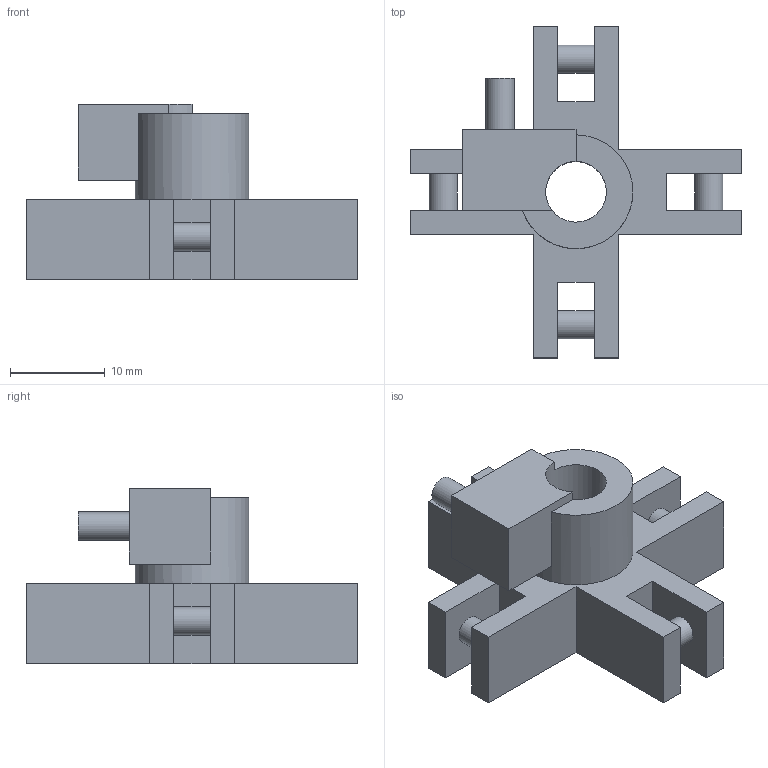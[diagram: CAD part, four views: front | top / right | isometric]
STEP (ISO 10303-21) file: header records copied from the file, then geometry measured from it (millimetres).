
FILE_DESCRIPTION(('Open CASCADE Model'),'2;1');
FILE_NAME('Open CASCADE Shape Model','2026-10-15T18:27:22',('Author'),( 'Open CASCADE'),'Open CASCADE STEP processor 7.9','Open CASCADE 7.9' ,'Unknown');
FILE_SCHEMA(('AUTOMOTIVE_DESIGN { 1 0 10303 214 1 1 1 1 }'));
Length unit declared in the file: millimetre
Products named in the file (1): Open CASCADE STEP translator 7.9 11
Bounding box: 35 x 35 x 18.5 mm (x, y, z)
Volume: 4692.6 mm3; surface area: 3648 mm2
Topology: 1 solids, 1 shells, 50 faces, 136 edges, 90 vertices
Faces by surface type: plane 43, cylinder 7
Full cylindrical faces by diameter (mm): 3 x5, 6.4 x1, 12 x1
Entity records: 3370 total; most frequent: CARTESIAN_POINT 663, DIRECTION 482, LINE 346, VECTOR 346, ORIENTED_EDGE 272, PCURVE 272, DEFINITIONAL_REPRESENTATION 272, EDGE_CURVE 136
